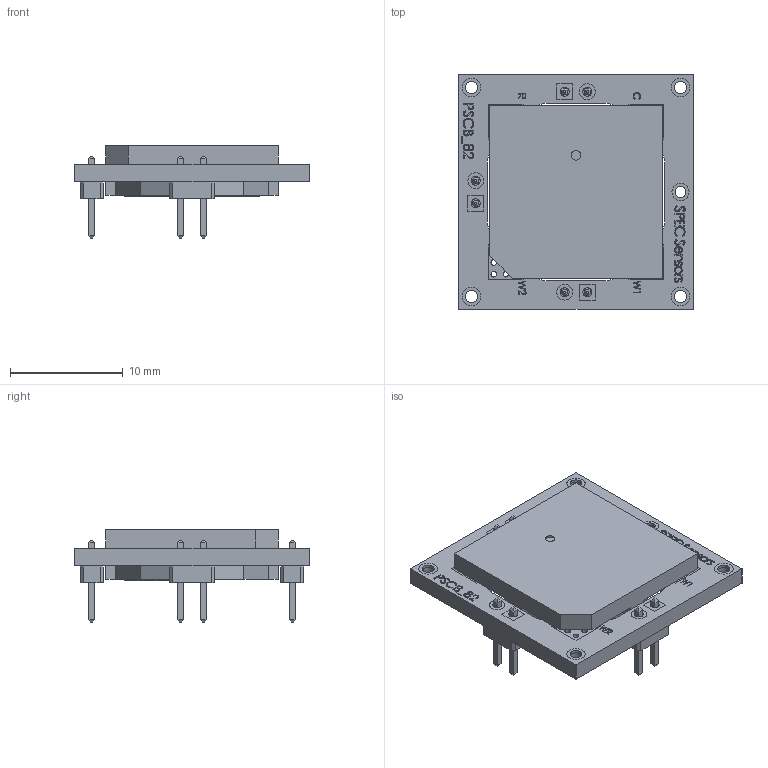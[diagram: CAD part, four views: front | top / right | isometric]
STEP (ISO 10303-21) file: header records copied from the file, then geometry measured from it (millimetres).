
FILE_DESCRIPTION (( 'STEP AP214' ), '1' );
FILE_NAME ('110-005 STEP.STEP', '2023-06-20T19:26:34', ( '' ), ( '' ), 'SwSTEP 2.0', 'SolidWorks 2017', '' );
FILE_SCHEMA (( 'AUTOMOTIVE_DESIGN' ));
Length unit declared in the file: millimetre
Products named in the file (6): semicircle barcode label; 981-001; 100-001 STEP; 110-005 STEP; pinconnector
Assembly tree (7 placements, depth 3):
  110-005 STEP
    100-001 STEP
    semicircle barcode label
    981-001
      981-001
      pinconnector  x3
Bounding box: 20.83 x 20.83 x 8.22 mm (x, y, z)
Volume: 1167 mm3; surface area: 1962.9 mm2
Topology: 51 solids, 51 shells, 770 faces, 1945 edges, 1294 vertices
Faces by surface type: plane 434, bspline 191, cylinder 145
Full cylindrical faces by diameter (mm): 0.35 x1, 0.5 x64, 0.787 x12, 0.85 x1, 0.965 x2, 1.067 x8, 1.397 x6, 1.524 x2, 1.651 x8
Entity records: 34426 total; most frequent: CARTESIAN_POINT 14023, ORIENTED_EDGE 3282, DIRECTION 2577, EDGE_CURVE 1641, VERTEX_POINT 1158, EDGE_LOOP 1007, LINE 969, VECTOR 969
